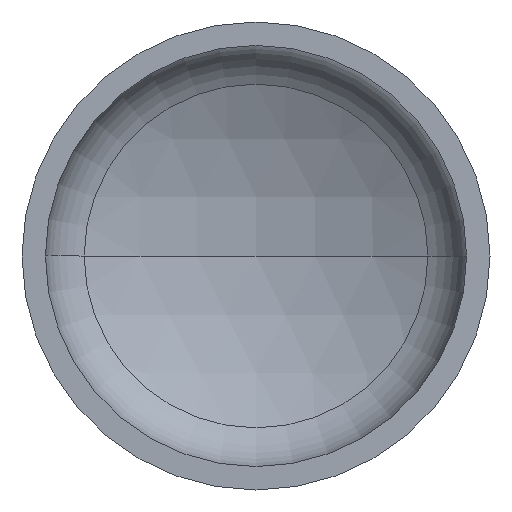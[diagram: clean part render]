
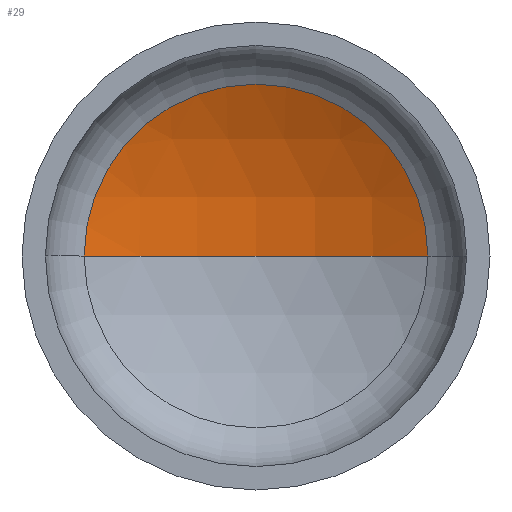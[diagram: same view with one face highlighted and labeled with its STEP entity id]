
A CAD part, front view. The second image highlights one B-rep face of the part: STEP entity #29.
In plain terms, the highlighted spherical face has radius 1280 mm.
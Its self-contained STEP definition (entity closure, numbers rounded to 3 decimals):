
#9 = AXIS2_PLACEMENT_3D ( 'NONE', #132, #140, #122 ) ;
#29 = ADVANCED_FACE ( 'NONE', ( #94 ), #410, .F. ) ;
#48 = AXIS2_PLACEMENT_3D ( 'NONE', #264, #256, #257 ) ;
#49 = AXIS2_PLACEMENT_3D ( 'NONE', #196, #202, #217 ) ;
#52 = ORIENTED_EDGE ( 'NONE', *, *, #142, .T. ) ;
#59 = VERTEX_POINT ( 'NONE', #247 ) ;
#61 = VERTEX_POINT ( 'NONE', #298 ) ;
#74 = EDGE_LOOP ( 'NONE', ( #245, #361, #52 ) ) ;
#84 = AXIS2_PLACEMENT_3D ( 'NONE', #255, #300, #291 ) ;
#94 = FACE_OUTER_BOUND ( 'NONE', #74, .T. ) ;
#122 = DIRECTION ( 'NONE',  ( 1., 0., 0. ) ) ;
#132 = CARTESIAN_POINT ( 'NONE',  ( 0., -799.565, 0. ) ) ;
#140 = DIRECTION ( 'NONE',  ( 0., 0., 1. ) ) ;
#142 = EDGE_CURVE ( 'NONE', #59, #167, #262, .T. ) ;
#146 = EDGE_CURVE ( 'NONE', #61, #59, #324, .T. ) ;
#167 = VERTEX_POINT ( 'NONE', #282 ) ;
#196 = CARTESIAN_POINT ( 'NONE',  ( 0., 337.675, 0. ) ) ;
#202 = DIRECTION ( 'NONE',  ( 0., -1., 0. ) ) ;
#217 = DIRECTION ( 'NONE',  ( 1., 0., 0. ) ) ;
#245 = ORIENTED_EDGE ( 'NONE', *, *, #363, .F. ) ;
#247 = CARTESIAN_POINT ( 'NONE',  ( 587.44, 337.675, 0. ) ) ;
#255 = CARTESIAN_POINT ( 'NONE',  ( 0., -799.565, 0. ) ) ;
#256 = DIRECTION ( 'NONE',  ( 0., 0., -1. ) ) ;
#257 = DIRECTION ( 'NONE',  ( -1., 0., 0. ) ) ;
#262 = CIRCLE ( 'NONE', #49, 587.44 ) ;
#264 = CARTESIAN_POINT ( 'NONE',  ( 0., -799.565, 0. ) ) ;
#282 = CARTESIAN_POINT ( 'NONE',  ( -587.44, 337.675, 0. ) ) ;
#291 = DIRECTION ( 'NONE',  ( -1., 0., 0. ) ) ;
#298 = CARTESIAN_POINT ( 'NONE',  ( 0., 480.435, 0. ) ) ;
#300 = DIRECTION ( 'NONE',  ( 0., 0., -1. ) ) ;
#324 = CIRCLE ( 'NONE', #48, 1280. ) ;
#361 = ORIENTED_EDGE ( 'NONE', *, *, #146, .T. ) ;
#363 = EDGE_CURVE ( 'NONE', #61, #167, #411, .T. ) ;
#410 = SPHERICAL_SURFACE ( 'NONE', #84, 1280. ) ;
#411 = CIRCLE ( 'NONE', #9, 1280. ) ;
